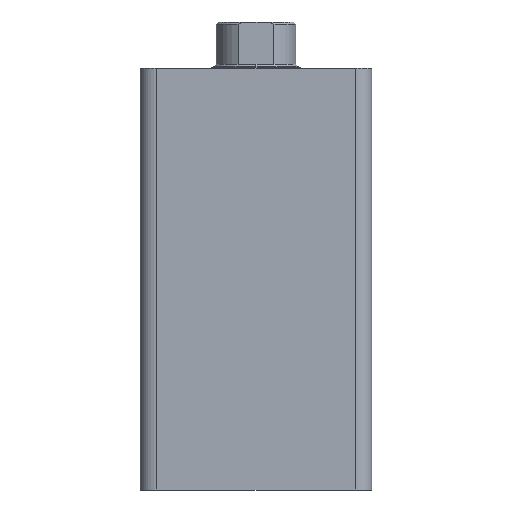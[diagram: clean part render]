
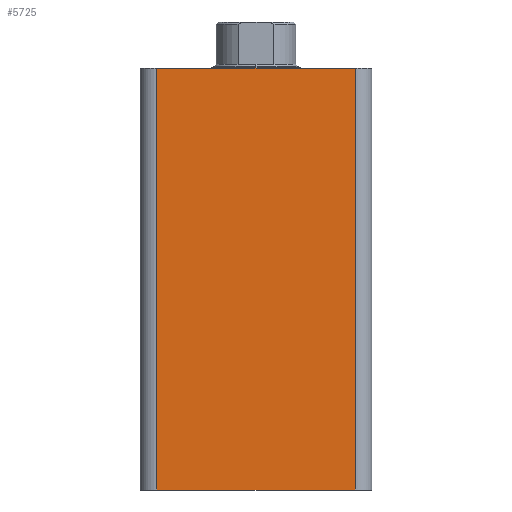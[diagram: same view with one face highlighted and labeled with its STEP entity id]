
A CAD part, front view. The second image highlights one B-rep face of the part: STEP entity #5725.
In plain terms, the highlighted planar face has unit normal (0, -1, 0).
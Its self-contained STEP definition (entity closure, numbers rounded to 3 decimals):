
#844 = LINE ( 'NONE', #5051, #10546 ) ;
#1193 = ORIENTED_EDGE ( 'NONE', *, *, #11292, .T. ) ;
#1884 = VERTEX_POINT ( 'NONE', #11804 ) ;
#1953 = CARTESIAN_POINT ( 'NONE',  ( 51., 0., 100. ) ) ;
#2917 = DIRECTION ( 'NONE',  ( 1., 0., 0. ) ) ;
#4526 = VERTEX_POINT ( 'NONE', #11222 ) ;
#4941 = EDGE_CURVE ( 'NONE', #11574, #5682, #12651, .T. ) ;
#5022 = PLANE ( 'NONE',  #8147 ) ;
#5051 = CARTESIAN_POINT ( 'NONE',  ( 4., 0., 100. ) ) ;
#5245 = VECTOR ( 'NONE', #12799, 1000. ) ;
#5682 = VERTEX_POINT ( 'NONE', #1953 ) ;
#5725 = ADVANCED_FACE ( 'NONE', ( #7217 ), #5022, .F. ) ;
#5831 = VECTOR ( 'NONE', #6147, 1000. ) ;
#6147 = DIRECTION ( 'NONE',  ( 1., 0., 0. ) ) ;
#7217 = FACE_OUTER_BOUND ( 'NONE', #7311, .T. ) ;
#7311 = EDGE_LOOP ( 'NONE', ( #12586, #10582, #7772, #1193 ) ) ;
#7376 = DIRECTION ( 'NONE',  ( 0., 0., 1. ) ) ;
#7582 = CARTESIAN_POINT ( 'NONE',  ( 51., 0., 0. ) ) ;
#7772 = ORIENTED_EDGE ( 'NONE', *, *, #7836, .F. ) ;
#7836 = EDGE_CURVE ( 'NONE', #1884, #5682, #9143, .T. ) ;
#7981 = LINE ( 'NONE', #10248, #5831 ) ;
#8147 = AXIS2_PLACEMENT_3D ( 'NONE', #13371, #12366, #7376 ) ;
#8300 = EDGE_CURVE ( 'NONE', #4526, #11574, #7981, .T. ) ;
#9143 = LINE ( 'NONE', #13299, #13550 ) ;
#10248 = CARTESIAN_POINT ( 'NONE',  ( 0., 0., 0. ) ) ;
#10433 = DIRECTION ( 'NONE',  ( 0., 0., -1. ) ) ;
#10546 = VECTOR ( 'NONE', #10433, 1000. ) ;
#10582 = ORIENTED_EDGE ( 'NONE', *, *, #4941, .T. ) ;
#11222 = CARTESIAN_POINT ( 'NONE',  ( 4., 0., 0. ) ) ;
#11292 = EDGE_CURVE ( 'NONE', #1884, #4526, #844, .T. ) ;
#11574 = VERTEX_POINT ( 'NONE', #7582 ) ;
#11720 = CARTESIAN_POINT ( 'NONE',  ( 51., 0., 100. ) ) ;
#11804 = CARTESIAN_POINT ( 'NONE',  ( 4., 0., 100. ) ) ;
#12366 = DIRECTION ( 'NONE',  ( 0., 1., 0. ) ) ;
#12586 = ORIENTED_EDGE ( 'NONE', *, *, #8300, .T. ) ;
#12651 = LINE ( 'NONE', #11720, #5245 ) ;
#12799 = DIRECTION ( 'NONE',  ( 0., 0., 1. ) ) ;
#13299 = CARTESIAN_POINT ( 'NONE',  ( 0., 0., 100. ) ) ;
#13371 = CARTESIAN_POINT ( 'NONE',  ( 0., 0., 100. ) ) ;
#13550 = VECTOR ( 'NONE', #2917, 1000. ) ;
